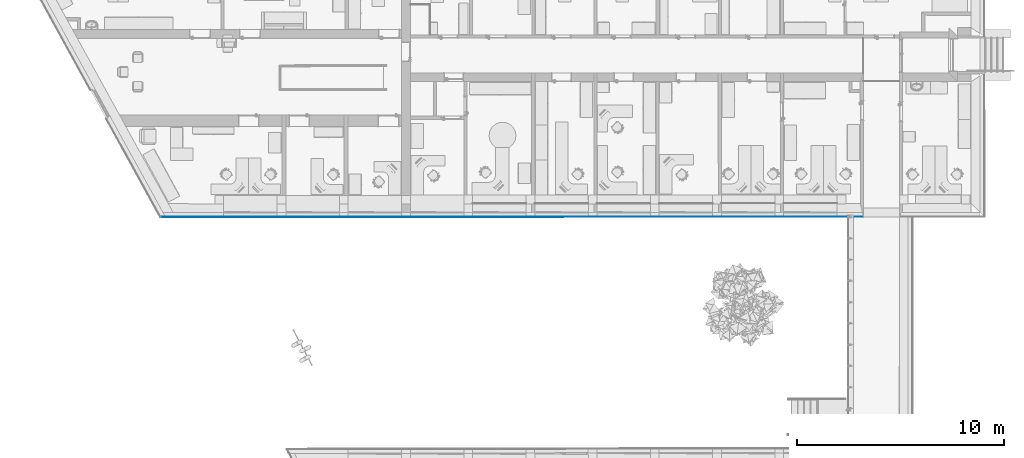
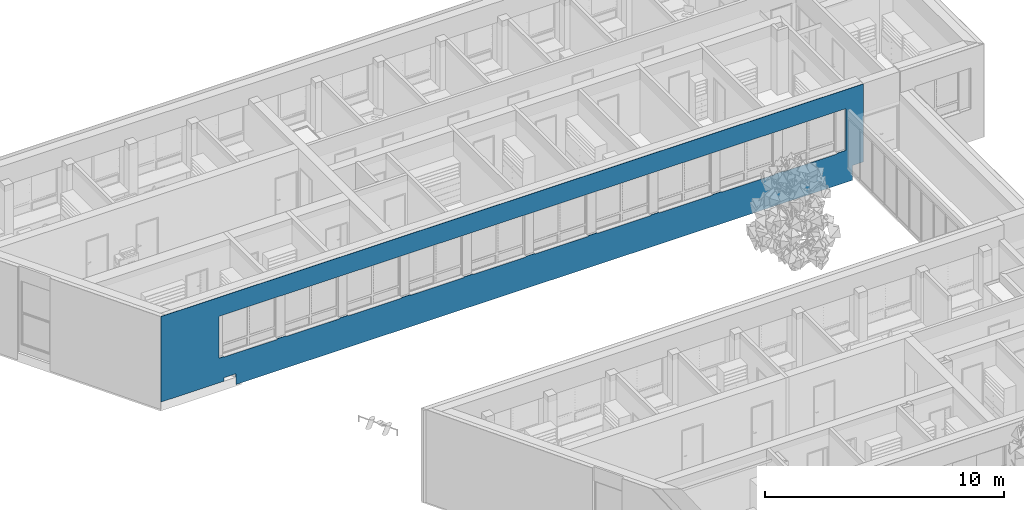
# One storey, part 91 of 194: 1 building element part, 10 openings, 1 element without a shape of its own.
"""IFC2X3 building model written with IfcOpenShell, lengths in millimetres."""

from ifc_helpers import new_model, entity, si_unit, converted_unit, derived_unit, money_unit, direction, frame, origin_with_axes, origin_2d_with_axis, place, context, subcontext, project, spatial, polyline, rectangle, outline, extrude, boolean, faceted_brep, material, type_object, element, aggregate, save


model = new_model("IFC2X3")

# Units and contexts
model_context = context("Model", 3, precision=1e-05, world=origin_with_axes(), true_north=direction((0.0, 1.0)))
body_context = subcontext(model_context, "Body", "Model", "MODEL_VIEW")
ifc_project = project(units=[si_unit("LENGTHUNIT", "METRE", prefix="MILLI"), si_unit("AREAUNIT", "SQUARE_METRE"), si_unit("VOLUMEUNIT", "CUBIC_METRE"), converted_unit("PLANEANGLEUNIT", "DEGREE", entity("IfcPlaneAngleMeasure", 0.0174532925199), si_unit("PLANEANGLEUNIT", "RADIAN"), dimensions=[0, 0, 0, 0, 0, 0, 0]), si_unit("SOLIDANGLEUNIT", "STERADIAN"), money_unit("EUR"), converted_unit("TIMEUNIT", "Year", entity("IfcTimeMeasure", 31556926.0), si_unit("TIMEUNIT", "SECOND"), dimensions=[0, 0, 1, 0, 0, 0, 0]), si_unit("MASSUNIT", "GRAM", prefix="KILO"), si_unit("THERMODYNAMICTEMPERATUREUNIT", "DEGREE_CELSIUS"), si_unit("LUMINOUSINTENSITYUNIT", "LUMEN"), si_unit("ENERGYUNIT", "JOULE", prefix="MEGA"), derived_unit("THERMALCONDUCTANCEUNIT", [(si_unit("POWERUNIT", "WATT"), 1), (si_unit("LENGTHUNIT", "METRE"), -1), (si_unit("THERMODYNAMICTEMPERATUREUNIT", "KELVIN"), -1)]), derived_unit("SPECIFICHEATCAPACITYUNIT", [(si_unit("ENERGYUNIT", "JOULE"), 1), (si_unit("MASSUNIT", "GRAM", prefix="KILO"), -1), (si_unit("THERMODYNAMICTEMPERATUREUNIT", "KELVIN"), -1)]), derived_unit("MASSDENSITYUNIT", [(si_unit("MASSUNIT", "GRAM", prefix="KILO"), 1), (si_unit("VOLUMEUNIT", "CUBIC_METRE"), -1)])], contexts=[model_context])

# Site, building, storey
site_placement = place(None, origin_with_axes())
site = spatial("IfcSite", under=ifc_project, at=site_placement, Name="Site", CompositionType="ELEMENT")
building_placement = place(site_placement, origin_with_axes())
building = spatial("IfcBuilding", under=site, at=building_placement, Name="Building", CompositionType="ELEMENT")
storey_placement = place(building_placement, frame((0.0, 0.0, 3000.0), z_axis=(0.0, 0.0, 1.0), x_axis=(1.0, 0.0, 0.0)))
storey = spatial("IfcBuildingStorey", under=building, at=storey_placement, Name="2 KORRUS", CompositionType="ELEMENT", Elevation=3000.0)

# Wall, openings, building element part
wall_type = type_object("IfcWallType", Name="VS4", PredefinedType="NOTDEFINED")
wall_placement = place(storey_placement, frame((4226.41631601, 58904.2587345, -750.0), z_axis=(0.0, 0.0, 1.0), x_axis=(0.999999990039, 0.000141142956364, 0.0)))
wall = element("IfcWall", 1, at=wall_placement, inside=storey, type_object=wall_type, Name="VS4")
opening_1_placement = place(wall_placement, frame((4217.61051359, 0.0, 1600.0), z_axis=(0.0, 0.0, 1.0), x_axis=(1.0, 0.0, 0.0)))
element("IfcOpeningElement", 2, at=opening_1_placement, cuts=wall, Name="välisaken * Double Window 22", context=body_context, shape_type="SweptSolid", body=[
    extrude(rectangle(XDim=2580.0, YDim=2100.0, at=origin_2d_with_axis()), frame((0.0, -19.9999999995, 1050.0), z_axis=(0.0, -1.0, 0.0), x_axis=(1.0, 0.0, 0.0)), (0.0, 0.0, -1.0), 1100.0),
    extrude(rectangle(XDim=2580.0, YDim=2100.0, at=origin_2d_with_axis()), frame((0.0, -19.9999999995, 1050.0), z_axis=(0.0, 1.0, 0.0), x_axis=(1.0, 0.0, 0.0)), (0.0, 0.0, -1.0), 850.000000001),
])
opening_2_placement = place(wall_placement, frame((7217.610458, 0.0, 1600.0), z_axis=(0.0, 0.0, 1.0), x_axis=(1.0, 0.0, 0.0)))
element("IfcOpeningElement", 3, at=opening_2_placement, cuts=wall, Name="välisaken * Double Window 22", context=body_context, shape_type="SweptSolid", body=[
    extrude(rectangle(XDim=2580.0, YDim=2100.0, at=origin_2d_with_axis()), frame((1.13686837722e-10, -19.9999999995, 1050.0), z_axis=(0.0, -1.0, 0.0), x_axis=(1.0, 0.0, 0.0)), (0.0, 0.0, -1.0), 1100.0),
    extrude(rectangle(XDim=2580.0, YDim=2100.0, at=origin_2d_with_axis()), frame((0.0, -19.9999999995, 1050.0), z_axis=(0.0, 1.0, 0.0), x_axis=(1.0, 0.0, 0.0)), (0.0, 0.0, -1.0), 850.000000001),
])
opening_3_placement = place(wall_placement, frame((10217.9483187, 0.0, 1600.0), z_axis=(0.0, 0.0, 1.0), x_axis=(1.0, 0.0, 0.0)))
element("IfcOpeningElement", 4, at=opening_3_placement, cuts=wall, Name="välisaken * Double Window 22", context=body_context, shape_type="SweptSolid", body=[
    extrude(rectangle(XDim=2580.0, YDim=2100.0, at=origin_2d_with_axis()), frame((2.27373675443e-10, -19.9999999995, 1050.0), z_axis=(0.0, -1.0, 0.0), x_axis=(1.0, 0.0, 0.0)), (0.0, 0.0, -1.0), 1100.0),
    extrude(rectangle(XDim=2580.0, YDim=2100.0, at=origin_2d_with_axis()), frame((1.13686837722e-10, -19.9999999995, 1050.0), z_axis=(0.0, 1.0, 0.0), x_axis=(1.0, 0.0, 0.0)), (0.0, 0.0, -1.0), 850.000000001),
])
opening_4_placement = place(wall_placement, frame((13217.6172268, 0.0, 1600.0), z_axis=(0.0, 0.0, 1.0), x_axis=(1.0, 0.0, 0.0)))
element("IfcOpeningElement", 5, at=opening_4_placement, cuts=wall, Name="välisaken * Double Window 22", context=body_context, shape_type="SweptSolid", body=[
    extrude(rectangle(XDim=2580.0, YDim=2100.0, at=origin_2d_with_axis()), frame((1.13686837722e-10, -19.9999999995, 1050.0), z_axis=(0.0, -1.0, 0.0), x_axis=(1.0, 0.0, 0.0)), (0.0, 0.0, -1.0), 1100.0),
    extrude(rectangle(XDim=2580.0, YDim=2100.0, at=origin_2d_with_axis()), frame((0.0, -19.9999999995, 1050.0), z_axis=(0.0, 1.0, 0.0), x_axis=(1.0, 0.0, 0.0)), (0.0, 0.0, -1.0), 850.000000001),
])
opening_5_placement = place(wall_placement, frame((16217.6100072, 0.0, 1600.0), z_axis=(0.0, 0.0, 1.0), x_axis=(1.0, 0.0, 0.0)))
element("IfcOpeningElement", 6, at=opening_5_placement, cuts=wall, Name="välisaken * Double Window 22", context=body_context, shape_type="SweptSolid", body=[
    extrude(rectangle(XDim=2580.0, YDim=2100.0, at=origin_2d_with_axis()), frame((2.27373675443e-10, -19.9999999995, 1050.0), z_axis=(0.0, -1.0, 0.0), x_axis=(1.0, 0.0, 0.0)), (0.0, 0.0, -1.0), 1100.0),
    extrude(rectangle(XDim=2580.0, YDim=2100.0, at=origin_2d_with_axis()), frame((0.0, -19.9999999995, 1050.0), z_axis=(0.0, 1.0, 0.0), x_axis=(1.0, 0.0, 0.0)), (0.0, 0.0, -1.0), 850.000000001),
])
opening_6_placement = place(wall_placement, frame((19217.6097877, -9.09494701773e-10, 1600.0), z_axis=(0.0, 0.0, 1.0), x_axis=(1.0, 0.0, 0.0)))
element("IfcOpeningElement", 7, at=opening_6_placement, cuts=wall, Name="välisaken * Double Window 22", context=body_context, shape_type="SweptSolid", body=[
    extrude(rectangle(XDim=2580.0, YDim=2100.0, at=origin_2d_with_axis()), frame((1.13686837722e-10, -19.9999999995, 1050.0), z_axis=(0.0, -1.0, 0.0), x_axis=(1.0, 0.0, 0.0)), (0.0, 0.0, -1.0), 1100.0),
    extrude(rectangle(XDim=2580.0, YDim=2100.0, at=origin_2d_with_axis()), frame((0.0, -19.9999999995, 1050.0), z_axis=(0.0, 1.0, 0.0), x_axis=(1.0, 0.0, 0.0)), (0.0, 0.0, -1.0), 850.000000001),
])
opening_7_placement = place(wall_placement, frame((22217.6095682, 0.0, 1600.0), z_axis=(0.0, 0.0, 1.0), x_axis=(1.0, 0.0, 0.0)))
element("IfcOpeningElement", 8, at=opening_7_placement, cuts=wall, Name="välisaken * Double Window 22", context=body_context, shape_type="SweptSolid", body=[
    extrude(rectangle(XDim=2580.0, YDim=2100.0, at=origin_2d_with_axis()), frame((1.13686837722e-10, -19.9999999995, 1050.0), z_axis=(0.0, -1.0, 0.0), x_axis=(1.0, 0.0, 0.0)), (0.0, 0.0, -1.0), 1100.0),
    extrude(rectangle(XDim=2580.0, YDim=2100.0, at=origin_2d_with_axis()), frame((1.13686837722e-10, -19.9999999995, 1050.0), z_axis=(0.0, 1.0, 0.0), x_axis=(1.0, 0.0, 0.0)), (0.0, 0.0, -1.0), 850.000000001),
])
opening_8_placement = place(wall_placement, frame((25219.1631179, 0.0, 1600.0), z_axis=(0.0, 0.0, 1.0), x_axis=(1.0, 0.0, 0.0)))
element("IfcOpeningElement", 9, at=opening_8_placement, cuts=wall, Name="välisaken * Double Window 22", context=body_context, shape_type="SweptSolid", body=[
    extrude(rectangle(XDim=2580.0, YDim=2100.0, at=origin_2d_with_axis()), frame((1.13686837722e-10, -19.9999999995, 1050.0), z_axis=(0.0, -1.0, 0.0), x_axis=(1.0, 0.0, 0.0)), (0.0, 0.0, -1.0), 1100.0),
    extrude(rectangle(XDim=2580.0, YDim=2100.0, at=origin_2d_with_axis()), frame((0.0, -19.9999999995, 1050.0), z_axis=(0.0, 1.0, 0.0), x_axis=(1.0, 0.0, 0.0)), (0.0, 0.0, -1.0), 850.000000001),
])
opening_9_placement = place(wall_placement, frame((28217.9460402, -9.09494701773e-10, 1600.0), z_axis=(0.0, 0.0, 1.0), x_axis=(1.0, 0.0, 0.0)))
element("IfcOpeningElement", 10, at=opening_9_placement, cuts=wall, Name="välisaken * Double Window 22", context=body_context, shape_type="SweptSolid", body=[
    extrude(rectangle(XDim=2580.0, YDim=2100.0, at=origin_2d_with_axis()), frame((2.27373675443e-10, -19.9999999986, 1050.0), z_axis=(0.0, -1.0, 0.0), x_axis=(1.0, 0.0, 0.0)), (0.0, 0.0, -1.0), 1100.0),
    extrude(rectangle(XDim=2580.0, YDim=2100.0, at=origin_2d_with_axis()), frame((1.13686837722e-10, -19.9999999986, 1050.0), z_axis=(0.0, 1.0, 0.0), x_axis=(1.0, 0.0, 0.0)), (0.0, 0.0, -1.0), 850.000000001),
])
opening_10_placement = place(wall_placement, frame((31218.0049304, 0.0, 1600.0), z_axis=(0.0, 0.0, 1.0), x_axis=(1.0, 0.0, 0.0)))
element("IfcOpeningElement", 11, at=opening_10_placement, cuts=wall, Name="välisaken * Double Window 22", context=body_context, shape_type="SweptSolid", body=[
    extrude(rectangle(XDim=2580.0, YDim=2100.0, at=origin_2d_with_axis()), frame((2.27373675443e-10, -19.9999999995, 1050.0), z_axis=(0.0, -1.0, 0.0), x_axis=(1.0, 0.0, 0.0)), (0.0, 0.0, -1.0), 1100.0),
    extrude(rectangle(XDim=2580.0, YDim=2100.0, at=origin_2d_with_axis()), frame((1.13686837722e-10, -19.9999999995, 1050.0), z_axis=(0.0, 1.0, 0.0), x_axis=(1.0, 0.0, 0.0)), (0.0, 0.0, -1.0), 850.000000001),
])
ifc_material = material(Name="Tellis - Viimistlus")
building_element_part_placement = place(wall_placement, origin_with_axes())
solid = boolean("DIFFERENCE", boolean("DIFFERENCE", boolean("DIFFERENCE", boolean("DIFFERENCE", boolean("DIFFERENCE", boolean("DIFFERENCE", boolean("DIFFERENCE", boolean("DIFFERENCE", extrude(outline(polyline([(-487.802936, -220.0), (33778.5662491, -220.0), (33778.5662491, -200.000000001), (-487.802936, -200.000000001), (-487.802936, -220.0)])), origin_with_axes(), (0.0, 0.0, 1.0), 4730.0), faceted_brep([(490.832959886, 0.0, 0.0), (490.832959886, -9.09494701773e-10, 4730.0), (-487.802936, 0.0, 4730.0), (-487.802936, 0.0, 0.0), (254.153863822, 430.00000001, 4730.0), (254.153863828, 429.999999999, 0.0), (-487.802936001, 429.999999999, 4730.0), (-487.802936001, 429.999999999, 0.0)], [[[0, 1, 2, 3]], [[4, 1, 0, 5]], [[1, 4, 6, 2]], [[6, 7, 3, 2]], [[5, 0, 3, 7]], [[4, 5, 7, 6]]])), faceted_brep([(32927.9456551, 429.999999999, 0.0), (32927.9456551, 430.000000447, 350.0), (33259.9762776, 430.000000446, 350.0), (33259.9762776, 429.999999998, 0.0), (32927.94289, 410.409378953, 0.0), (32927.94289, 410.409378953, 350.0), (32507.9428942, 410.468658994, 350.0), (32507.9456509, 430.000000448, 350.0), (29927.9460366, 430.000000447, 350.0), (29927.9432799, 410.468658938, 350.0), (29507.943284, 410.52793898, 350.0), (29507.9460324, 430.000000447, 350.0), (26927.946418, 430.000000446, 350.0), (26927.943653, 410.409379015, 350.0), (26507.9436571, 410.468659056, 350.0), (26507.9464139, 430.000000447, 350.0), (23927.9467995, 430.000000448, 350.0), (23927.9440428, 410.468659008, 350.0), (23507.944047, 410.52793905, 350.0), (23507.9467953, 430.000000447, 350.0), (20927.947181, 430.000000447, 350.0), (20927.9444242, 410.46865898, 350.0), (20507.9444284, 410.527939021, 350.0), (20507.9471768, 430.000000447, 350.0), (17927.9475624, 430.000000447, 350.0), (17927.9449479, 411.476005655, 350.0), (17507.9449521, 411.535285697, 350.0), (17507.9475582, 430.000000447, 350.0), (14927.9479439, 430.000000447, 350.0), (14927.9451674, 410.328432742, 350.0), (14507.9451716, 410.387712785, 350.0), (14507.9479397, 430.000000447, 350.0), (11927.9483253, 430.000000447, 350.0), (11927.9453869, 409.180859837, 350.0), (11507.945391, 409.240139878, 350.0), (11507.9483211, 430.000000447, 350.0), (8928.28635755, 430.000000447, 350.0), (8928.28347883, 409.604240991, 350.0), (8508.28348301, 409.663521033, 350.0), (8508.28635337, 430.000000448, 350.0), (5927.9484371, 430.000000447, 350.0), (5927.94561815, 410.02771755, 350.0), (5507.94562233, 410.086997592, 350.0), (5507.94843291, 430.000000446, 350.0), (3422.17787231, 430.000000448, 350.0), (3630.60652961, 50.9099216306, 350.0), (3658.59746686, 0.0, 350.0), (33099.7594101, 0.0, 350.0), (33099.7846807, 50.1106312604, 350.0), (33259.7846989, 50.1062915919, 350.0), (33259.7846989, 50.1062915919, 0.0), (33099.7846807, 50.1106312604, 0.0), (33099.7594101, 0.0, 0.0), (3658.59746686, 0.0, 0.0), (3630.60652961, 50.9099216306, 0.0), (3422.17787256, 430.0, 0.0), (5507.94843291, 429.999999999, 0.0), (5507.94562233, 410.086997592, 0.0), (5927.94561815, 410.02771755, 0.0), (5927.9484371, 429.999999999, 0.0), (8508.28635337, 430.0, 0.0), (8508.28348301, 409.663521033, 0.0), (8928.28347883, 409.604240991, 0.0), (8928.28635755, 430.0, 0.0), (11507.9483211, 429.999999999, 0.0), (11507.945391, 409.240139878, 0.0), (11927.9453869, 409.180859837, 0.0), (11927.9483253, 429.999999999, 0.0), (14507.9479397, 429.999999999, 0.0), (14507.9451716, 410.387712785, 0.0), (14927.9451674, 410.328432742, 0.0), (14927.9479439, 429.999999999, 0.0), (17507.9475582, 429.999999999, 0.0), (17507.9449521, 411.535285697, 0.0), (17927.9449479, 411.476005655, 0.0), (17927.9475624, 429.999999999, 0.0), (20507.9471768, 429.999999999, 0.0), (20507.9444284, 410.527939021, 0.0), (20927.9444242, 410.46865898, 0.0), (20927.947181, 429.999999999, 0.0), (23507.9467953, 429.999999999, 0.0), (23507.944047, 410.52793905, 0.0), (23927.9440428, 410.468659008, 0.0), (23927.9467995, 430.0, 0.0), (26507.9464139, 429.999999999, 0.0), (26507.9436571, 410.468659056, 0.0), (26927.943653, 410.409379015, 0.0), (26927.946418, 429.999999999, 0.0), (29507.9460324, 429.999999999, 0.0), (29507.943284, 410.52793898, 0.0), (29927.9432799, 410.468658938, 0.0), (29927.9460366, 429.999999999, 0.0), (32507.9456509, 430.0, 0.0), (32507.9428942, 410.468658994, 0.0)], [[[0, 1, 2, 3]], [[1, 0, 4, 5]], [[2, 1, 5, 6, 7, 8, 9, 10, 11, 12, 13, 14, 15, 16, 17, 18, 19, 20, 21, 22, 23, 24, 25, 26, 27, 28, 29, 30, 31, 32, 33, 34, 35, 36, 37, 38, 39, 40, 41, 42, 43, 44, 45, 46, 47, 48, 49]], [[3, 2, 49, 50]], [[4, 0, 3, 50, 51, 52, 53, 54, 55, 56, 57, 58, 59, 60, 61, 62, 63, 64, 65, 66, 67, 68, 69, 70, 71, 72, 73, 74, 75, 76, 77, 78, 79, 80, 81, 82, 83, 84, 85, 86, 87, 88, 89, 90, 91, 92, 93]], [[4, 93, 6, 5]], [[92, 7, 6, 93]], [[7, 92, 91, 8]], [[8, 91, 90, 9]], [[90, 89, 10, 9]], [[88, 11, 10, 89]], [[11, 88, 87, 12]], [[12, 87, 86, 13]], [[86, 85, 14, 13]], [[84, 15, 14, 85]], [[15, 84, 83, 16]], [[16, 83, 82, 17]], [[82, 81, 18, 17]], [[80, 19, 18, 81]], [[19, 80, 79, 20]], [[20, 79, 78, 21]], [[78, 77, 22, 21]], [[76, 23, 22, 77]], [[23, 76, 75, 24]], [[24, 75, 74, 25]], [[74, 73, 26, 25]], [[72, 27, 26, 73]], [[27, 72, 71, 28]], [[28, 71, 70, 29]], [[70, 69, 30, 29]], [[68, 31, 30, 69]], [[31, 68, 67, 32]], [[32, 67, 66, 33]], [[66, 65, 34, 33]], [[64, 35, 34, 65]], [[35, 64, 63, 36]], [[36, 63, 62, 37]], [[62, 61, 38, 37]], [[60, 39, 38, 61]], [[39, 60, 59, 40]], [[40, 59, 58, 41]], [[58, 57, 42, 41]], [[56, 43, 42, 57]], [[43, 56, 55, 44]], [[55, 54, 45, 44]], [[53, 46, 45, 54]], [[46, 53, 52, 47]], [[52, 51, 48, 47]], [[51, 50, 49, 48]]])), faceted_brep([(33778.4621326, 430.000000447, 4730.0), (33778.4621326, 0.0, 4730.0), (33778.5662491, 0.0, 4730.0), (33778.5662491, 430.0, 4730.0), (33778.4621323, 0.0, 4000.0), (33778.4621326, 430.000000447, 4000.0), (33778.4621323, 0.0, 750.0), (33778.4621326, 0.0, 0.0), (33778.5662491, 0.0, 0.0), (33778.5662491, 430.0, 0.0), (33778.4621326, 429.999999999, 0.0), (33778.4621326, 429.999999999, 750.0), (33778.2586322, 429.999999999, 750.0), (33778.2586322, 429.999999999, 4000.0)], [[[0, 1, 2, 3]], [[4, 1, 0, 5]], [[6, 7, 8, 2, 1, 4]], [[2, 8, 9, 3]], [[5, 0, 3, 9, 10, 11, 12, 13]], [[5, 13, 4]], [[7, 6, 11, 10]], [[7, 10, 9, 8]], [[6, 4, 13, 12]], [[12, 11, 6]]])), faceted_brep([(2682.40292194, -200.000000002, 1630.0), (32927.8847586, -200.000000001, 1630.0), (32927.8847586, -200.000000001, 3762.38569103), (2682.40292194, -200.000000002, 3762.38569103), (2682.41561411, -110.075806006, 1630.0), (32927.8968483, -114.344742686, 1630.0), (32927.8968483, -114.344742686, 3762.38569103), (2682.41561411, -110.075806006, 3762.38569103)], [[[0, 1, 2, 3]], [[1, 0, 4, 5]], [[2, 1, 5, 6]], [[3, 2, 6, 7]], [[0, 3, 7, 4]], [[4, 7, 6, 5]]])), faceted_brep([(3658.59746686, 0.0, 367.85512503), (3658.59746686, 0.0, 350.0), (33099.7594101, 0.0, 350.0), (33099.7594101, 0.0, 0.0), (-487.802936, 0.0, 0.0), (-487.802936, 0.0, 4730.0), (-2.27373675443e-10, 0.0, 4730.0), (-2.27373675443e-10, 0.0, 367.85512503), (2816.14557684, 0.0, 367.85512503), (2816.14557684, 0.0, 547.981410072), (3386.81224966, 0.0, 547.981410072), (3386.81224966, 0.0, 367.85512503), (3768.56006886, -200.000000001, 0.0), (3724.07613521, -119.092613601, 0.0), (3724.07613521, -119.092613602, 350.0), (3768.56006886, -200.000000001, 367.85512503), (33089.6989493, -119.889095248, 350.0), (33089.7039923, -109.889095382, 350.0), (33099.7039934, -109.889366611, 350.0), (33099.7039934, -109.889366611, 0.0), (-487.802936, -200.000000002, 0.0), (33089.7039923, -109.889095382, 0.0), (33089.6989493, -119.889095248, 0.0), (-487.802936, -200.000000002, 4730.0), (110.083300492, -200.000000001, 4730.0), (110.083300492, -200.000000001, 367.85512503), (2926.1713567, -200.0, 367.85512503), (2926.1713567, -200.0, 547.981410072), (3496.83802953, -200.000000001, 547.981410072), (3496.83802953, -200.000000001, 367.85512503)], [[[0, 1, 2, 3, 4, 5, 6, 7, 8, 9, 10, 11]], [[12, 13, 14, 1, 0, 15]], [[2, 1, 14, 16, 17, 18]], [[3, 2, 18, 19]], [[13, 12, 20, 4, 3, 19, 21, 22]], [[5, 4, 20, 23]], [[24, 6, 5, 23]], [[6, 24, 25, 7]], [[8, 7, 25, 26]], [[9, 8, 26, 27]], [[10, 9, 27, 28]], [[11, 10, 28, 29]], [[0, 11, 29, 15]], [[13, 22, 16, 14]], [[25, 24, 23, 20, 12, 15, 29, 28, 27, 26]], [[22, 21, 17, 16]], [[21, 19, 18, 17]]])), faceted_brep([(33778.4621326, -200.000000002, 4730.0), (33778.4621326, -200.000000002, 4000.0), (33778.5567835, -200.000004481, 4000.0), (33778.5662491, -200.000000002, 4730.0), (33778.4621326, 0.0, 4730.0), (33778.4621323, 0.0, 4000.0), (33778.5567835, -200.000004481, 750.0), (33778.5662491, -200.000000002, 0.0), (33778.5662491, 0.0, 0.0), (33778.5662491, 0.0, 4730.0), (33259.7594305, 0.0, 0.0), (33259.7594305, 0.0, 750.0), (33778.4621323, 0.0, 750.0), (33259.6585713, -200.000000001, 750.0), (33259.6585713, -200.000000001, 0.0), (33778.4621326, -200.000000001, 750.0)], [[[0, 1, 2, 3]], [[1, 0, 4, 5]], [[2, 1, 5]], [[2, 6, 7, 8, 9, 3]], [[4, 0, 3, 9]], [[5, 4, 9, 8, 10, 11, 12]], [[6, 2, 5, 12]], [[13, 14, 7, 6, 15]], [[14, 10, 8, 7]], [[11, 10, 14, 13]], [[12, 11, 13, 15]], [[15, 6, 12]]])), faceted_brep([(-487.802936, -220.000000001, 0.0), (-107.202769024, -220.008866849, 0.0), (98.0806644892, -220.000000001, 0.0), (98.0806644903, -220.000000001, 367.85512503), (-107.202769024, -220.008866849, 367.85512503), (-107.202769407, -220.0, 4730.0), (-487.802936, -220.000000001, 4730.0), (-487.802936, -200.000000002, 0.0), (3768.56006886, -200.000000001, 0.0), (3779.46890279, -219.840989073, 0.0), (3507.75958732, -219.852725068, 0.0), (3507.84060752, -219.999999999, 0.0), (2937.17393469, -220.0, 0.0), (2937.10647425, -219.877373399, 0.0), (2937.10647425, -219.877373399, 367.85512503), (2926.1713567, -200.0, 367.85512503), (110.083300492, -200.000000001, 367.85512503), (-118.211099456, -200.0, 367.85512503), (-118.211099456, -200.0, 4730.0), (-487.802936, -200.000000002, 4730.0), (2926.1713567, -200.0, 547.981410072), (3496.83802953, -200.000000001, 547.981410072), (3496.83802953, -200.000000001, 367.85512503), (3768.56006886, -200.000000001, 367.85512503), (3779.46890279, -219.840989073, 367.85512503), (3507.75958732, -219.852725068, 367.85512503), (3507.84060752, -219.999999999, 547.981410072), (2937.17393469, -219.999999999, 547.981410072)], [[[0, 1, 2, 3, 4, 5, 6]], [[1, 0, 7, 8, 9, 10, 11, 12, 13, 2]], [[3, 2, 13, 14]], [[4, 3, 14, 15, 16, 17]], [[5, 4, 17, 18]], [[6, 5, 18, 19]], [[0, 6, 19, 7]], [[7, 19, 18, 17, 16, 15, 20, 21, 22, 23, 8]], [[9, 8, 23, 24]], [[10, 9, 24, 25]], [[11, 10, 25, 22, 21, 26]], [[27, 12, 11, 26]], [[13, 12, 27, 20, 15, 14]], [[27, 26, 21, 20]], [[22, 25, 24, 23]]])), faceted_brep([(2682.40009908, -220.000000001, 1630.0), (2682.40009908, -220.000000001, 3762.38569103), (2682.40292194, -200.000000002, 3762.38569103), (2682.40292194, -200.000000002, 1630.0), (32927.8819358, -219.999999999, 1630.0), (32927.8819358, -219.999999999, 3762.38569103), (32927.8847586, -200.000000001, 3762.38569103), (32927.8847586, -200.000000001, 1630.0)], [[[0, 1, 2, 3]], [[1, 0, 4, 5]], [[1, 5, 6, 2]], [[3, 2, 6, 7]], [[4, 0, 3, 7]], [[5, 4, 7, 6]]]))
building_element_part = element("IfcBuildingElementPart", 12, at=building_element_part_placement, material=ifc_material, Name="Tellis - Viimistlus", context=body_context, shape_type="CSG", body=[
    boolean("DIFFERENCE", boolean("DIFFERENCE", solid, faceted_brep([(33259.6484854, -220.0, 750.0), (33259.6484854, -220.0, 0.0), (33778.5662491, -220.000000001, 0.0), (33778.5662487, -220.0, 750.0), (33778.4621326, -220.0, 750.0), (33259.6585713, -200.000000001, 750.0), (33259.6585713, -200.000000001, 0.0), (33778.5662491, -200.000000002, 0.0), (33778.5567835, -200.000000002, 750.0), (33778.4621326, -200.000000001, 750.0)], [[[0, 1, 2, 3, 4]], [[1, 0, 5, 6]], [[1, 6, 7, 2]], [[2, 7, 8, 3]], [[4, 3, 8, 9]], [[5, 0, 4, 9]], [[6, 5, 9, 8, 7]]])), faceted_brep([(33778.5567835, -200.000000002, 4000.0), (33778.4621325, -200.000000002, 4000.0), (33778.4621326, -200.000000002, 4730.0), (33778.5662491, -200.000000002, 4730.0), (33778.5662487, -220.000000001, 4000.0), (33778.4621326, -220.0, 4000.0), (33778.4621326, -220.0, 4730.0), (33778.5662491, -220.000000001, 4730.0)], [[[0, 1, 2, 3]], [[4, 5, 1, 0]], [[5, 6, 2, 1]], [[6, 7, 3, 2]], [[3, 7, 4, 0]], [[5, 4, 7, 6]]])),
])
aggregate(wall, [building_element_part])

save(model, "model.ifc")
